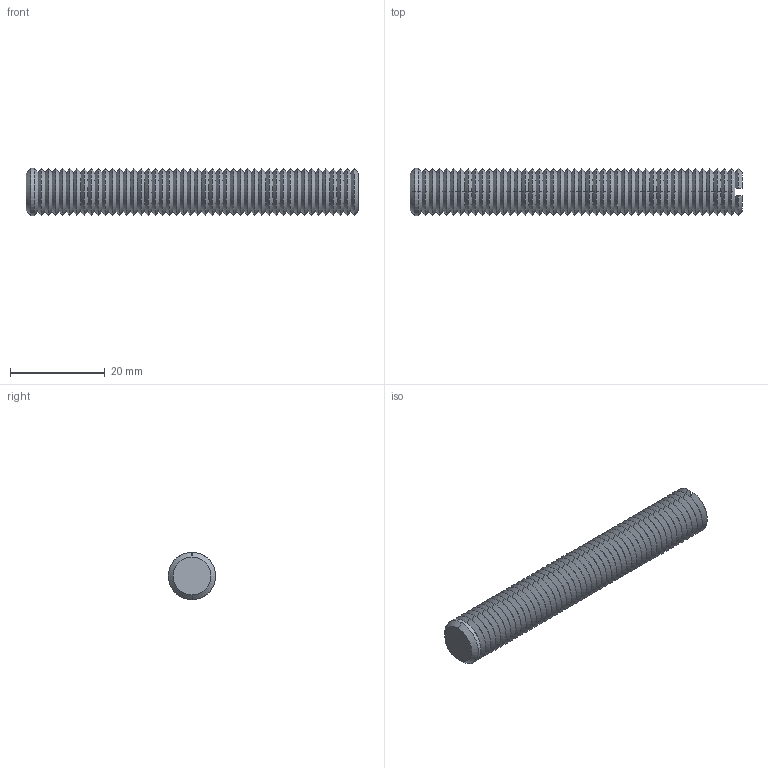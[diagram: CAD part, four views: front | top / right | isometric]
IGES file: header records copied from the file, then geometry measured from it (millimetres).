
Start section: SolidWorks IGES file using analytic representation for surfaces
Global section: file name: C:\Documents and Settings\IANO\Desktop\Temp File\Process pending\EXISTING\34300_v2\34300_v2_20170622_IGES\34300.W0108.igs; native system: SolidWorks 2009; preprocessor: SolidWorks 2009; author: IANO; date: 170622.094109; units: millimetre
Bounding box: 70 x 10 x 10 mm (x, y, z)
Surface area: 3294.5 mm2 (no closed solid volume)
Topology: 0 solids, 0 shells, 192 faces, 832 edges, 832 vertices
Faces by surface type: revolution 186, bspline 6
